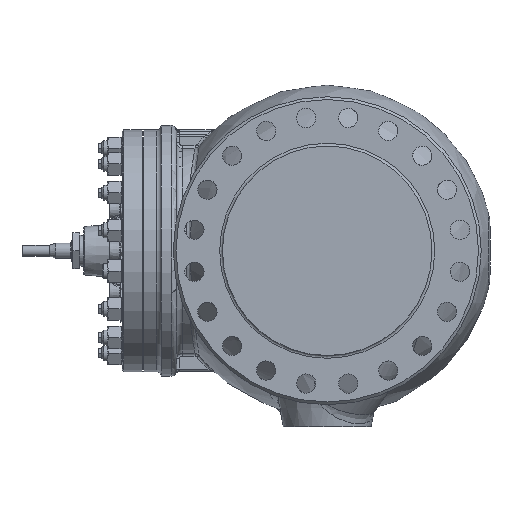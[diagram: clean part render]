
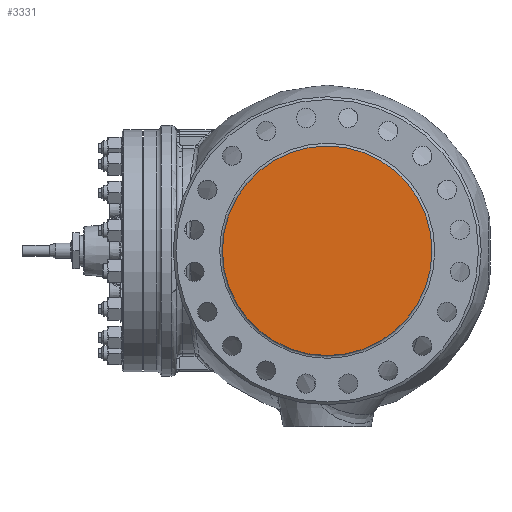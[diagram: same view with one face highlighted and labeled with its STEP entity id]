
A CAD part, left-side view. The second image highlights one B-rep face of the part: STEP entity #3331.
In plain terms, the highlighted planar face has unit normal (-1, 0, 0).
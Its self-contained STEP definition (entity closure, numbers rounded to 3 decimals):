
#3331=ADVANCED_FACE('',(#5674),#4938,.T.);
#4938=PLANE('',#23922);
#5674=FACE_OUTER_BOUND('',#6933,.T.);
#6933=EDGE_LOOP('',(#10283));
#9059=CIRCLE('',#23921,190.5);
#10283=ORIENTED_EDGE('',*,*,#18992,.T.);
#16853=VERTEX_POINT('',#33592);
#18992=EDGE_CURVE('',#16853,#16853,#9059,.T.);
#23921=AXIS2_PLACEMENT_3D('',#33591,#26559,#26560);
#23922=AXIS2_PLACEMENT_3D('',#33593,#26561,#26562);
#26559=DIRECTION('',(-1.,0.,0.));
#26560=DIRECTION('',(0.,0.,1.));
#26561=DIRECTION('',(-1.,0.,0.));
#26562=DIRECTION('',(0.,0.,1.));
#33591=CARTESIAN_POINT('',(-409.5,0.,0.));
#33592=CARTESIAN_POINT('',(-409.5,0.,190.5));
#33593=CARTESIAN_POINT('',(-409.5,135.,0.));
